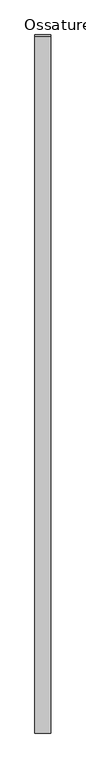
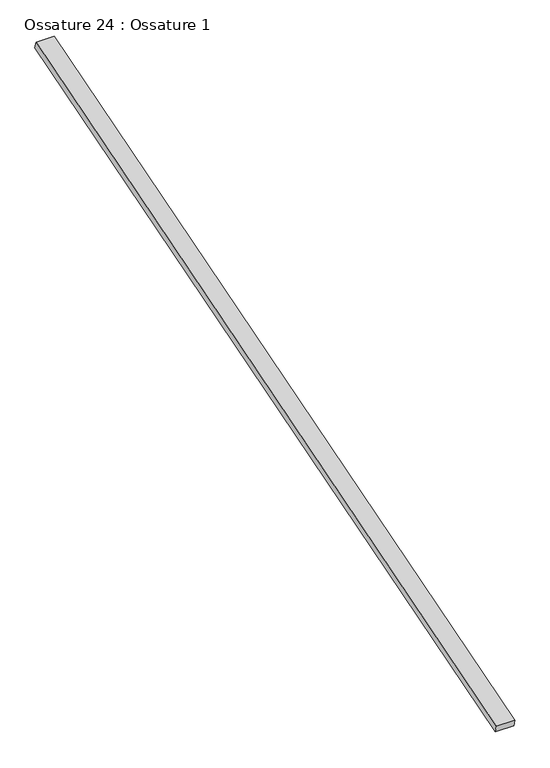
"""IFC4 building model written with IfcOpenShell, lengths in millimetres: beam geometry, Ossature 24 : Ossature 1."""

from ifc_helpers import new_model, si_unit, frame, origin, place, context, project, spatial, polyline, outline, extrude, source, transform, mapped, element, save


def ossature_24_ossature_1_7b9b8d1f(model_context):
    return source(origin(), model_context, "Body", "SweptSolid", [
        extrude(outline(polyline([(0.0, 0.0), (0.0, -4543.0299679), (-100.0, -4543.0299679), (-100.0, 0.0), (0.0, 0.0)])), frame((6022.8466393, -833.3913565, 8153.6336115), z_axis=(0.0, -0.28734788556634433, 0.9578262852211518), x_axis=(-1.0, 0.0, 0.0)), (0.0, 0.0, 1.0), 40.0),
    ])


if __name__ == "__main__":
    model = new_model("IFC4")
    model_context = context("Model", 3, world=origin())
    ifc_project = project(units=[si_unit("LENGTHUNIT", "METRE", prefix="MILLI")], contexts=[model_context])
    site = spatial("IfcSite", under=ifc_project)
    building = spatial("IfcBuilding", under=site)
    placement = place(None, origin())
    ossature_24_ossature_1_shape = ossature_24_ossature_1_7b9b8d1f(model_context)
    element("IfcBeam", 1, ObjectType="Ossature 24 : Ossature 1", at=placement, inside=building, context=model_context, shape_type="MappedRepresentation", body=[
        mapped(ossature_24_ossature_1_shape, transform((0.0, 0.0, 0.0), x_axis=(1.0, 0.0, 0.0), y_axis=(0.0, 1.0, 0.0), z_axis=(0.0, 0.0, 1.0))),
    ])
    save(model, "model.ifc")
